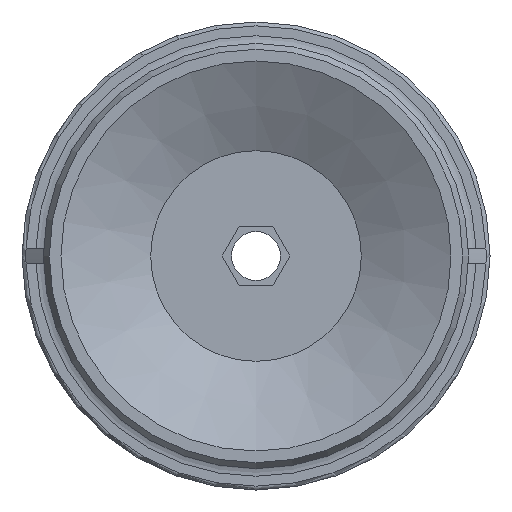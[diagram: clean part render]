
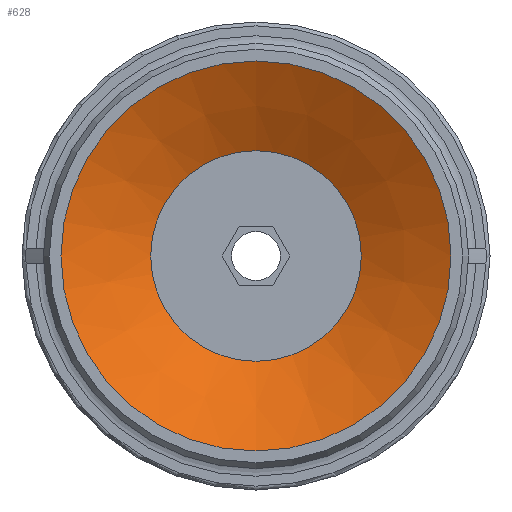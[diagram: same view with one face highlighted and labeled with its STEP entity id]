
A CAD part, front view. The second image highlights one B-rep face of the part: STEP entity #628.
In plain terms, the highlighted conical face has half-angle 61.631 degrees and reference radius 5.4 mm.
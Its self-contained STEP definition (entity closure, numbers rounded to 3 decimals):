
#628=ADVANCED_FACE('',(#930,#931),#932,.F.);
#930=FACE_BOUND('',#1263,.T.);
#931=FACE_OUTER_BOUND('',#1264,.T.);
#932=CONICAL_SURFACE('',#1265,5.4,1.076);
#1263=EDGE_LOOP('',(#2079));
#1264=EDGE_LOOP('',(#2080));
#1265=AXIS2_PLACEMENT_3D('',#2081,#2082,#2083);
#2079=ORIENTED_EDGE('',*,*,#2385,.F.);
#2080=ORIENTED_EDGE('',*,*,#2406,.T.);
#2081=CARTESIAN_POINT('',(0.0,2.484,0.0));
#2082=DIRECTION('',(-0.0,-1.0,0.));
#2083=DIRECTION('',(0.0,0.,-1.0));
#2385=EDGE_CURVE('',#2758,#2758,#2759,.T.);
#2406=EDGE_CURVE('',#2792,#2792,#2793,.T.);
#2758=VERTEX_POINT('',#3566);
#2759=CIRCLE('',#3567,5.4);
#2792=VERTEX_POINT('',#3604);
#2793=CIRCLE('',#3605,10.0);
#3566=CARTESIAN_POINT('',(0.0,2.484,-5.4));
#3567=AXIS2_PLACEMENT_3D('',#3975,#3976,#3977);
#3604=CARTESIAN_POINT('',(0.0,0.,-10.0));
#3605=AXIS2_PLACEMENT_3D('',#4030,#4031,#4032);
#3975=CARTESIAN_POINT('',(0.0,2.484,0.0));
#3976=DIRECTION('',(0.0,-1.0,0.));
#3977=DIRECTION('',(0.0,0.,-1.0));
#4030=CARTESIAN_POINT('',(0.0,0.0,0.0));
#4031=DIRECTION('',(0.0,-1.0,0.));
#4032=DIRECTION('',(0.0,0.,-1.0));
